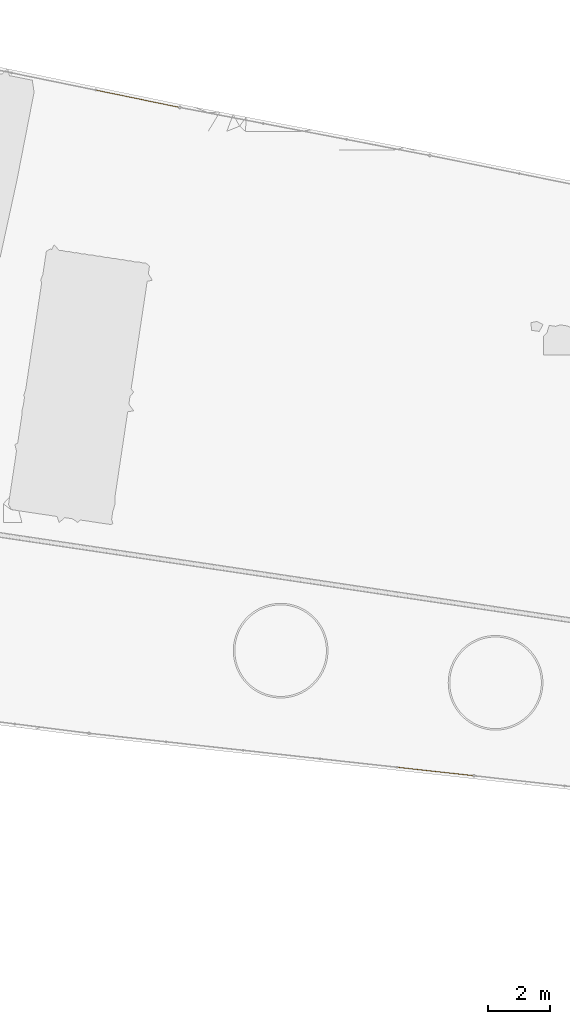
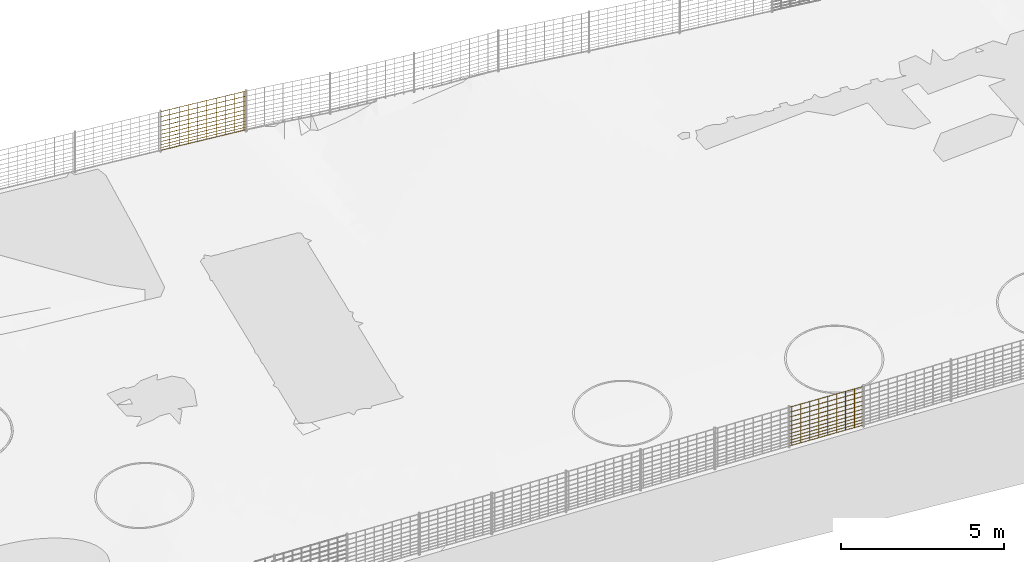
# Not in any storey, part 35 of 72: 2 railings.
"""IFC4 model written with IfcOpenShell, lengths in metres."""

from ifc_helpers import new_model, si_unit, direction, frame, origin_with_axes, place, context, subcontext, project, spatial, polygons, material, element, save


model = new_model("IFC4")

# Units and contexts
model_context = context("Model", 3, precision=1e-05, world=origin_with_axes(), true_north=direction((0.0, 1.0)))
body_context = subcontext(model_context, "Body", "Model", "MODEL_VIEW")
ifc_project = project(units=[si_unit("VOLUMEUNIT", "CUBIC_METRE"), si_unit("LENGTHUNIT", "METRE"), si_unit("AREAUNIT", "SQUARE_METRE")], contexts=[model_context])

# Site
site_placement = place(None, origin_with_axes())
site = spatial("IfcSite", under=ifc_project, at=site_placement, Name="Lares · Rua das Mercês · artigo 4771")

# Railings
ifc_material = material(Name="Aço galvanizado / Stahl verzinkt", Category="steel")
railing_1_placement = place(site_placement, frame((0.0, 0.0, 0.0), z_axis=(0.0, 0.0, 1.0), x_axis=(1.0, -1.03767253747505e-17, 0.0)))
element("IfcRailing", 1, at=railing_1_placement, inside=site, material=ifc_material, Name="Vedação · rede ovelheira 1.027", ObjectType="SHEEP_WIRE_FENCE", PredefinedType="USERDEFINED", context=body_context, shape_type="Tessellation", body=[
    polygons([(23.4589836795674, 0.284682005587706, 12.6250367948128), (23.4588670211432, 0.283185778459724, 12.6235375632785), (23.4586549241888, 0.281700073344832, 12.6250367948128), (23.4587715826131, 0.283196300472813, 12.6265360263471), (20.9791119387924, 0.558085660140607, 12.545145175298), (20.9789952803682, 0.556589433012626, 12.5436459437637), (20.9787831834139, 0.555103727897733, 12.545145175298), (20.9788998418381, 0.556599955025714, 12.5466444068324), (23.4589836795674, 0.284682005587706, 12.7250367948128), (23.4588670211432, 0.283185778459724, 12.7235375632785), (23.4586549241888, 0.281700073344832, 12.7250367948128), (23.4587715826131, 0.283196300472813, 12.7265360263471), (20.9791119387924, 0.558085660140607, 12.645145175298), (20.9789952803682, 0.556589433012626, 12.6436459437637), (20.9787831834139, 0.555103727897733, 12.645145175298), (20.9788998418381, 0.556599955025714, 12.6466444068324), (23.4589836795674, 0.284682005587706, 12.8350367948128), (23.4588670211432, 0.283185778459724, 12.8335375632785), (23.4586549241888, 0.281700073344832, 12.8350367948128), (23.4587715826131, 0.283196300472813, 12.8365360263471), (20.9791119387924, 0.558085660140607, 12.755145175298), (20.9789952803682, 0.556589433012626, 12.7536459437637), (20.9787831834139, 0.555103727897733, 12.755145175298), (20.9788998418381, 0.556599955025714, 12.7566444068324), (23.4589836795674, 0.284682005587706, 12.9550367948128), (23.4588670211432, 0.283185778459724, 12.9535375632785), (23.4586549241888, 0.281700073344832, 12.9550367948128), (23.4587715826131, 0.283196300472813, 12.9565360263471), (20.9791119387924, 0.558085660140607, 12.875145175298), (20.9789952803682, 0.556589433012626, 12.8736459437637), (20.9787831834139, 0.555103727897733, 12.875145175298), (20.9788998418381, 0.556599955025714, 12.8766444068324), (23.4589836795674, 0.284682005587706, 13.0850367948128), (23.4588670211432, 0.283185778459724, 13.0835375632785), (23.4586549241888, 0.281700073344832, 13.0850367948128), (23.4587715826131, 0.283196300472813, 13.0865360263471), (20.9791119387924, 0.558085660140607, 13.005145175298), (20.9789952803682, 0.556589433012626, 13.0036459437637), (20.9787831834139, 0.555103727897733, 13.005145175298), (20.9788998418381, 0.556599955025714, 13.0066444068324), (23.4589836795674, 0.284682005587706, 13.2250367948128), (23.4588670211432, 0.283185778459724, 13.2235375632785), (23.4586549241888, 0.281700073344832, 13.2250367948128), (23.4587715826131, 0.283196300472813, 13.2265360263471), (20.9791119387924, 0.558085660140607, 13.145145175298), (20.9789952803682, 0.556589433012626, 13.1436459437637), (20.9787831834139, 0.555103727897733, 13.145145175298), (20.9788998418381, 0.556599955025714, 13.1466444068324), (23.4589836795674, 0.284682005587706, 13.3750367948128), (23.4588670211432, 0.283185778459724, 13.3735375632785), (23.4586549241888, 0.281700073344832, 13.3750367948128), (23.4587715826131, 0.283196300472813, 13.3765360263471), (20.9791119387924, 0.558085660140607, 13.295145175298), (20.9789952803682, 0.556589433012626, 13.2936459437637), (20.9787831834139, 0.555103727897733, 13.295145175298), (20.9788998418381, 0.556599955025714, 13.2966444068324), (23.4589836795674, 0.284682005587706, 13.5350367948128), (23.4588670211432, 0.283185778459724, 13.5335375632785), (23.4586549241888, 0.281700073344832, 13.5350367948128), (23.4587715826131, 0.283196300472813, 13.5365360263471), (20.9791119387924, 0.558085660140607, 13.455145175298), (20.9789952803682, 0.556589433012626, 13.4536459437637), (20.9787831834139, 0.555103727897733, 13.455145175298), (20.9788998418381, 0.556599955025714, 13.4566444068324), (23.4589836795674, 0.284682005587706, 13.7050367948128), (23.4588670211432, 0.283185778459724, 13.7035375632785), (23.4586549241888, 0.281700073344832, 13.7050367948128), (23.4587715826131, 0.283196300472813, 13.7065360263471), (20.9791119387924, 0.558085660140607, 13.625145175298), (20.9789952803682, 0.556589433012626, 13.6236459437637), (20.9787831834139, 0.555103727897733, 13.625145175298), (20.9788998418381, 0.556599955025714, 13.6266444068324), (23.4589836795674, 0.284682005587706, 13.8850367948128), (23.4588670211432, 0.283185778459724, 13.8835375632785), (23.4586549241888, 0.281700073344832, 13.8850367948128), (23.4587715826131, 0.283196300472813, 13.8865360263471), (20.9791119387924, 0.558085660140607, 13.805145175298), (20.9789952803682, 0.556589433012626, 13.8036459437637), (20.9787831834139, 0.555103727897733, 13.805145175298), (20.9788998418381, 0.556599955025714, 13.8066444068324), (23.4589836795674, 0.284682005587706, 14.0750367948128), (23.4588670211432, 0.283185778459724, 14.0735375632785), (23.4586549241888, 0.281700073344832, 14.0750367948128), (23.4587715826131, 0.283196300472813, 14.0765360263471), (20.9791119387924, 0.558085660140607, 13.995145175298), (20.9789952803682, 0.556589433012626, 13.9936459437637), (20.9787831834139, 0.555103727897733, 13.995145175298), (20.9788998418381, 0.556599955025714, 13.9966444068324), (23.1606260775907, 0.317566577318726, 12.6154301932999), (23.1591260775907, 0.316066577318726, 12.6154301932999), (23.1606260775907, 0.314566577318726, 12.6154301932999), (23.1621260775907, 0.316066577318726, 12.6154301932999), (23.1606260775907, 0.317566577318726, 14.0654301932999), (23.1591260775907, 0.316066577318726, 14.0654301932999), (23.1606260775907, 0.314566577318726, 14.0654301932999), (23.1621260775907, 0.316066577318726, 14.0654301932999), (22.8624328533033, 0.350442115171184, 12.6058235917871), (22.8609328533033, 0.348942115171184, 12.6058235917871), (22.8624328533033, 0.347442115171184, 12.6058235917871), (22.8639328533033, 0.348942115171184, 12.6058235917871), (22.8624328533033, 0.350442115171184, 14.0558235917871), (22.8609328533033, 0.348942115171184, 14.0558235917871), (22.8624328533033, 0.347442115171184, 14.0558235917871), (22.8639328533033, 0.348942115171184, 14.0558235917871), (22.5642396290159, 0.383317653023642, 12.5962169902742), (22.5627396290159, 0.381817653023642, 12.5962169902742), (22.5642396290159, 0.380317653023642, 12.5962169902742), (22.5657396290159, 0.381817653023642, 12.5962169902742), (22.5642396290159, 0.383317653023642, 14.0462169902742), (22.5627396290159, 0.381817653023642, 14.0462169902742), (22.5642396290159, 0.380317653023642, 14.0462169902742), (22.5657396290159, 0.381817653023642, 14.0462169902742), (22.2660464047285, 0.4161931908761, 12.5866103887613), (22.2645464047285, 0.4146931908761, 12.5866103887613), (22.2660464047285, 0.4131931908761, 12.5866103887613), (22.2675464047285, 0.4146931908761, 12.5866103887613), (22.2660464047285, 0.4161931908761, 14.0366103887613), (22.2645464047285, 0.4146931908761, 14.0366103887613), (22.2660464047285, 0.4131931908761, 14.0366103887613), (22.2675464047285, 0.4146931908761, 14.0366103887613), (21.9678531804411, 0.449068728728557, 12.5770037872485), (21.9663531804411, 0.447568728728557, 12.5770037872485), (21.9678531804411, 0.446068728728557, 12.5770037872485), (21.9693531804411, 0.447568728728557, 12.5770037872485), (21.9678531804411, 0.449068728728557, 14.0270037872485), (21.9663531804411, 0.447568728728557, 14.0270037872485), (21.9678531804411, 0.446068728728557, 14.0270037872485), (21.9693531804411, 0.447568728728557, 14.0270037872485), (21.6696599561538, 0.481944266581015, 12.5673971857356), (21.6681599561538, 0.480444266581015, 12.5673971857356), (21.6696599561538, 0.478944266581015, 12.5673971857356), (21.6711599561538, 0.480444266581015, 12.5673971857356), (21.6696599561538, 0.481944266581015, 14.0173971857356), (21.6681599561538, 0.480444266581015, 14.0173971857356), (21.6696599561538, 0.478944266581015, 14.0173971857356), (21.6711599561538, 0.480444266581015, 14.0173971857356), (21.3714667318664, 0.514819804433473, 12.5577905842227), (21.3699667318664, 0.513319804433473, 12.5577905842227), (21.3714667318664, 0.511819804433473, 12.5577905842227), (21.3729667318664, 0.513319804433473, 12.5577905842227), (21.3714667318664, 0.514819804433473, 14.0077905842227), (21.3699667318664, 0.513319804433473, 14.0077905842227), (21.3714667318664, 0.511819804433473, 14.0077905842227), (21.3729667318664, 0.513319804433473, 14.0077905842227), (21.073273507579, 0.54769534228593, 12.5481839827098), (21.071773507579, 0.54619534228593, 12.5481839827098), (21.073273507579, 0.544695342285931, 12.5481839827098), (21.074773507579, 0.54619534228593, 12.5481839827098), (21.073273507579, 0.54769534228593, 13.9981839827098), (21.071773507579, 0.54619534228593, 13.9981839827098), (21.073273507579, 0.544695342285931, 13.9981839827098), (21.074773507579, 0.54619534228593, 13.9981839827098)], [[[4, 3, 2, 1]], [[5, 6, 7, 8]], [[1, 2, 6, 5]], [[2, 3, 7, 6]], [[3, 4, 8, 7]], [[4, 1, 5, 8]], [[12, 11, 10, 9]], [[13, 14, 15, 16]], [[9, 10, 14, 13]], [[10, 11, 15, 14]], [[11, 12, 16, 15]], [[12, 9, 13, 16]], [[20, 19, 18, 17]], [[21, 22, 23, 24]], [[17, 18, 22, 21]], [[18, 19, 23, 22]], [[19, 20, 24, 23]], [[20, 17, 21, 24]], [[28, 27, 26, 25]], [[29, 30, 31, 32]], [[25, 26, 30, 29]], [[26, 27, 31, 30]], [[27, 28, 32, 31]], [[28, 25, 29, 32]], [[36, 35, 34, 33]], [[37, 38, 39, 40]], [[33, 34, 38, 37]], [[34, 35, 39, 38]], [[35, 36, 40, 39]], [[36, 33, 37, 40]], [[44, 43, 42, 41]], [[45, 46, 47, 48]], [[41, 42, 46, 45]], [[42, 43, 47, 46]], [[43, 44, 48, 47]], [[44, 41, 45, 48]], [[52, 51, 50, 49]], [[53, 54, 55, 56]], [[49, 50, 54, 53]], [[50, 51, 55, 54]], [[51, 52, 56, 55]], [[52, 49, 53, 56]], [[60, 59, 58, 57]], [[61, 62, 63, 64]], [[57, 58, 62, 61]], [[58, 59, 63, 62]], [[59, 60, 64, 63]], [[60, 57, 61, 64]], [[68, 67, 66, 65]], [[69, 70, 71, 72]], [[65, 66, 70, 69]], [[66, 67, 71, 70]], [[67, 68, 72, 71]], [[68, 65, 69, 72]], [[76, 75, 74, 73]], [[77, 78, 79, 80]], [[73, 74, 78, 77]], [[74, 75, 79, 78]], [[75, 76, 80, 79]], [[76, 73, 77, 80]], [[84, 83, 82, 81]], [[85, 86, 87, 88]], [[81, 82, 86, 85]], [[82, 83, 87, 86]], [[83, 84, 88, 87]], [[84, 81, 85, 88]], [[92, 91, 90, 89]], [[93, 94, 95, 96]], [[89, 90, 94, 93]], [[90, 91, 95, 94]], [[91, 92, 96, 95]], [[92, 89, 93, 96]], [[100, 99, 98, 97]], [[101, 102, 103, 104]], [[97, 98, 102, 101]], [[98, 99, 103, 102]], [[99, 100, 104, 103]], [[100, 97, 101, 104]], [[108, 107, 106, 105]], [[109, 110, 111, 112]], [[105, 106, 110, 109]], [[106, 107, 111, 110]], [[107, 108, 112, 111]], [[108, 105, 109, 112]], [[116, 115, 114, 113]], [[117, 118, 119, 120]], [[113, 114, 118, 117]], [[114, 115, 119, 118]], [[115, 116, 120, 119]], [[116, 113, 117, 120]], [[124, 123, 122, 121]], [[125, 126, 127, 128]], [[121, 122, 126, 125]], [[122, 123, 127, 126]], [[123, 124, 128, 127]], [[124, 121, 125, 128]], [[132, 131, 130, 129]], [[133, 134, 135, 136]], [[129, 130, 134, 133]], [[130, 131, 135, 134]], [[131, 132, 136, 135]], [[132, 129, 133, 136]], [[140, 139, 138, 137]], [[141, 142, 143, 144]], [[137, 138, 142, 141]], [[138, 139, 143, 142]], [[139, 140, 144, 143]], [[140, 137, 141, 144]], [[148, 147, 146, 145]], [[149, 150, 151, 152]], [[145, 146, 150, 149]], [[146, 147, 151, 150]], [[147, 148, 152, 151]], [[148, 145, 149, 152]]]),
])
railing_2_placement = place(site_placement, frame((0.0, 0.0, 0.0), z_axis=(0.0, 0.0, 1.0), x_axis=(1.0, -1.03767253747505e-17, 0.0)))
element("IfcRailing", 2, at=railing_2_placement, inside=site, material=ifc_material, Name="Vedação · rede ovelheira 1.055", ObjectType="SHEEP_WIRE_FENCE", PredefinedType="USERDEFINED", context=body_context, shape_type="Tessellation", body=[
    polygons([(11.2702982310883, 22.3659618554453, 13.8071220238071), (11.270687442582, 22.3674132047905, 13.8056246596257), (11.2709025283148, 22.368900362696, 13.8071220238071), (11.2705133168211, 22.3674490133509, 13.8086193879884), (13.9817824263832, 21.8083513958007, 13.9714462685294), (13.9821716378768, 21.8098027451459, 13.9699489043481), (13.9823867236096, 21.8112899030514, 13.9714462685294), (13.981997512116, 21.8098385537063, 13.9729436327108), (11.2702982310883, 22.3659618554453, 13.9071220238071), (11.270687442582, 22.3674132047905, 13.9056246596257), (11.2709025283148, 22.368900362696, 13.9071220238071), (11.2705133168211, 22.3674490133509, 13.9086193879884), (13.9817824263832, 21.8083513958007, 14.0714462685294), (13.9821716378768, 21.8098027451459, 14.0699489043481), (13.9823867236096, 21.8112899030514, 14.0714462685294), (13.981997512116, 21.8098385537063, 14.0729436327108), (11.2702982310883, 22.3659618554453, 14.0171220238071), (11.270687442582, 22.3674132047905, 14.0156246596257), (11.2709025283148, 22.368900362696, 14.0171220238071), (11.2705133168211, 22.3674490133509, 14.0186193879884), (13.9817824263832, 21.8083513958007, 14.1814462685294), (13.9821716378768, 21.8098027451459, 14.1799489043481), (13.9823867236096, 21.8112899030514, 14.1814462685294), (13.981997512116, 21.8098385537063, 14.1829436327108), (11.2702982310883, 22.3659618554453, 14.1371220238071), (11.270687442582, 22.3674132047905, 14.1356246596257), (11.2709025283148, 22.368900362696, 14.1371220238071), (11.2705133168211, 22.3674490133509, 14.1386193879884), (13.9817824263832, 21.8083513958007, 14.3014462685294), (13.9821716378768, 21.8098027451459, 14.2999489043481), (13.9823867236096, 21.8112899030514, 14.3014462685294), (13.981997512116, 21.8098385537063, 14.3029436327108), (11.2702982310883, 22.3659618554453, 14.2671220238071), (11.270687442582, 22.3674132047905, 14.2656246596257), (11.2709025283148, 22.368900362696, 14.2671220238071), (11.2705133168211, 22.3674490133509, 14.2686193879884), (13.9817824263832, 21.8083513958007, 14.4314462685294), (13.9821716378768, 21.8098027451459, 14.4299489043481), (13.9823867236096, 21.8112899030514, 14.4314462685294), (13.981997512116, 21.8098385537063, 14.4329436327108), (11.2702982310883, 22.3659618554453, 14.4071220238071), (11.270687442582, 22.3674132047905, 14.4056246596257), (11.2709025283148, 22.368900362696, 14.4071220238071), (11.2705133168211, 22.3674490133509, 14.4086193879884), (13.9817824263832, 21.8083513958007, 14.5714462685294), (13.9821716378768, 21.8098027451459, 14.5699489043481), (13.9823867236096, 21.8112899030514, 14.5714462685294), (13.981997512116, 21.8098385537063, 14.5729436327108), (11.2702982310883, 22.3659618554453, 14.5571220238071), (11.270687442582, 22.3674132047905, 14.5556246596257), (11.2709025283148, 22.368900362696, 14.5571220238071), (11.2705133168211, 22.3674490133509, 14.5586193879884), (13.9817824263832, 21.8083513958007, 14.7214462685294), (13.9821716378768, 21.8098027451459, 14.7199489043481), (13.9823867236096, 21.8112899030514, 14.7214462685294), (13.981997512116, 21.8098385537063, 14.7229436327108), (11.2702982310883, 22.3659618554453, 14.7171220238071), (11.270687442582, 22.3674132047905, 14.7156246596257), (11.2709025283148, 22.368900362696, 14.7171220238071), (11.2705133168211, 22.3674490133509, 14.7186193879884), (13.9817824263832, 21.8083513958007, 14.8814462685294), (13.9821716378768, 21.8098027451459, 14.8799489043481), (13.9823867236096, 21.8112899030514, 14.8814462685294), (13.981997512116, 21.8098385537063, 14.8829436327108), (11.2702982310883, 22.3659618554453, 14.8871220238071), (11.270687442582, 22.3674132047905, 14.8856246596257), (11.2709025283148, 22.368900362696, 14.8871220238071), (11.2705133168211, 22.3674490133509, 14.8886193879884), (13.9817824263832, 21.8083513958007, 15.0514462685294), (13.9821716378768, 21.8098027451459, 15.0499489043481), (13.9823867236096, 21.8112899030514, 15.0514462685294), (13.981997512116, 21.8098385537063, 15.0529436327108), (11.2702982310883, 22.3659618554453, 15.0671220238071), (11.270687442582, 22.3674132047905, 15.0656246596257), (11.2709025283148, 22.368900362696, 15.0671220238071), (11.2705133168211, 22.3674490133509, 15.0686193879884), (13.9817824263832, 21.8083513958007, 15.2314462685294), (13.9821716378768, 21.8098027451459, 15.2299489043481), (13.9823867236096, 21.8112899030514, 15.2314462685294), (13.981997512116, 21.8098385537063, 15.2329436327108), (11.2702982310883, 22.3659618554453, 15.2571220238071), (11.270687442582, 22.3674132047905, 15.2556246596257), (11.2709025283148, 22.368900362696, 15.2571220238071), (11.2705133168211, 22.3674490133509, 15.2586193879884), (13.9817824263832, 21.8083513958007, 15.4214462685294), (13.9821716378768, 21.8098027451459, 15.4199489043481), (13.9823867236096, 21.8112899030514, 15.4214462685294), (13.981997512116, 21.8098385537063, 15.4229436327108), (11.5644511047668, 22.3085013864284, 13.8249302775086), (11.5629511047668, 22.3070013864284, 13.8249302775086), (11.5644511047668, 22.3055013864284, 13.8249302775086), (11.5659511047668, 22.3070013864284, 13.8249302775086), (11.5644511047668, 22.3085013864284, 15.2749302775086), (11.5629511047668, 22.3070013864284, 15.2749302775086), (11.5644511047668, 22.3055013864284, 15.2749302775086), (11.5659511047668, 22.3070013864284, 15.2749302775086), (11.8583018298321, 22.2480716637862, 13.8427385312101), (11.8568018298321, 22.2465716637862, 13.8427385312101), (11.8583018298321, 22.2450716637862, 13.8427385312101), (11.8598018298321, 22.2465716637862, 13.8427385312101), (11.8583018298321, 22.2480716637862, 15.2927385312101), (11.8568018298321, 22.2465716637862, 15.2927385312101), (11.8583018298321, 22.2450716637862, 15.2927385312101), (11.8598018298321, 22.2465716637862, 15.2927385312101), (12.1521525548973, 22.1876419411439, 13.8605467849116), (12.1506525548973, 22.1861419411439, 13.8605467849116), (12.1521525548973, 22.1846419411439, 13.8605467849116), (12.1536525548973, 22.1861419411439, 13.8605467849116), (12.1521525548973, 22.1876419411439, 15.3105467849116), (12.1506525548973, 22.1861419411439, 15.3105467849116), (12.1521525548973, 22.1846419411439, 15.3105467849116), (12.1536525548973, 22.1861419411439, 15.3105467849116), (12.4460032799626, 22.1272122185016, 13.8783550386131), (12.4445032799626, 22.1257122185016, 13.8783550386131), (12.4460032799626, 22.1242122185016, 13.8783550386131), (12.4475032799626, 22.1257122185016, 13.8783550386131), (12.4460032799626, 22.1272122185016, 15.3283550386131), (12.4445032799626, 22.1257122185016, 15.3283550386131), (12.4460032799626, 22.1242122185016, 15.3283550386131), (12.4475032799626, 22.1257122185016, 15.3283550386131), (12.7398540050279, 22.0667824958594, 13.8961632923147), (12.7383540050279, 22.0652824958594, 13.8961632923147), (12.7398540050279, 22.0637824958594, 13.8961632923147), (12.7413540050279, 22.0652824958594, 13.8961632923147), (12.7398540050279, 22.0667824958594, 15.3461632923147), (12.7383540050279, 22.0652824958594, 15.3461632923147), (12.7398540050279, 22.0637824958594, 15.3461632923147), (12.7413540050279, 22.0652824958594, 15.3461632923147), (13.0337047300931, 22.0063527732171, 13.9139715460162), (13.0322047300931, 22.0048527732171, 13.9139715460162), (13.0337047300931, 22.0033527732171, 13.9139715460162), (13.0352047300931, 22.0048527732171, 13.9139715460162), (13.0337047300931, 22.0063527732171, 15.3639715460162), (13.0322047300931, 22.0048527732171, 15.3639715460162), (13.0337047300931, 22.0033527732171, 15.3639715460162), (13.0352047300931, 22.0048527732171, 15.3639715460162), (13.3275554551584, 21.9459230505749, 13.9317797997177), (13.3260554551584, 21.9444230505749, 13.9317797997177), (13.3275554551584, 21.9429230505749, 13.9317797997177), (13.3290554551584, 21.9444230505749, 13.9317797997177), (13.3275554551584, 21.9459230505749, 15.3817797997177), (13.3260554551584, 21.9444230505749, 15.3817797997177), (13.3275554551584, 21.9429230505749, 15.3817797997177), (13.3290554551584, 21.9444230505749, 15.3817797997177), (13.6214061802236, 21.8854933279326, 13.9495880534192), (13.6199061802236, 21.8839933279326, 13.9495880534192), (13.6214061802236, 21.8824933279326, 13.9495880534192), (13.6229061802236, 21.8839933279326, 13.9495880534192), (13.6214061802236, 21.8854933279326, 15.3995880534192), (13.6199061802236, 21.8839933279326, 15.3995880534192), (13.6214061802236, 21.8824933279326, 15.3995880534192), (13.6229061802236, 21.8839933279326, 15.3995880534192), (13.9152569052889, 21.8250636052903, 13.9673963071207), (13.9137569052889, 21.8235636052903, 13.9673963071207), (13.9152569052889, 21.8220636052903, 13.9673963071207), (13.9167569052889, 21.8235636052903, 13.9673963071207), (13.9152569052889, 21.8250636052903, 15.4173963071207), (13.9137569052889, 21.8235636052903, 15.4173963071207), (13.9152569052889, 21.8220636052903, 15.4173963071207), (13.9167569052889, 21.8235636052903, 15.4173963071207)], [[[4, 3, 2, 1]], [[5, 6, 7, 8]], [[1, 2, 6, 5]], [[2, 3, 7, 6]], [[3, 4, 8, 7]], [[4, 1, 5, 8]], [[12, 11, 10, 9]], [[13, 14, 15, 16]], [[9, 10, 14, 13]], [[10, 11, 15, 14]], [[11, 12, 16, 15]], [[12, 9, 13, 16]], [[20, 19, 18, 17]], [[21, 22, 23, 24]], [[17, 18, 22, 21]], [[18, 19, 23, 22]], [[19, 20, 24, 23]], [[20, 17, 21, 24]], [[28, 27, 26, 25]], [[29, 30, 31, 32]], [[25, 26, 30, 29]], [[26, 27, 31, 30]], [[27, 28, 32, 31]], [[28, 25, 29, 32]], [[36, 35, 34, 33]], [[37, 38, 39, 40]], [[33, 34, 38, 37]], [[34, 35, 39, 38]], [[35, 36, 40, 39]], [[36, 33, 37, 40]], [[44, 43, 42, 41]], [[45, 46, 47, 48]], [[41, 42, 46, 45]], [[42, 43, 47, 46]], [[43, 44, 48, 47]], [[44, 41, 45, 48]], [[52, 51, 50, 49]], [[53, 54, 55, 56]], [[49, 50, 54, 53]], [[50, 51, 55, 54]], [[51, 52, 56, 55]], [[52, 49, 53, 56]], [[60, 59, 58, 57]], [[61, 62, 63, 64]], [[57, 58, 62, 61]], [[58, 59, 63, 62]], [[59, 60, 64, 63]], [[60, 57, 61, 64]], [[68, 67, 66, 65]], [[69, 70, 71, 72]], [[65, 66, 70, 69]], [[66, 67, 71, 70]], [[67, 68, 72, 71]], [[68, 65, 69, 72]], [[76, 75, 74, 73]], [[77, 78, 79, 80]], [[73, 74, 78, 77]], [[74, 75, 79, 78]], [[75, 76, 80, 79]], [[76, 73, 77, 80]], [[84, 83, 82, 81]], [[85, 86, 87, 88]], [[81, 82, 86, 85]], [[82, 83, 87, 86]], [[83, 84, 88, 87]], [[84, 81, 85, 88]], [[92, 91, 90, 89]], [[93, 94, 95, 96]], [[89, 90, 94, 93]], [[90, 91, 95, 94]], [[91, 92, 96, 95]], [[92, 89, 93, 96]], [[100, 99, 98, 97]], [[101, 102, 103, 104]], [[97, 98, 102, 101]], [[98, 99, 103, 102]], [[99, 100, 104, 103]], [[100, 97, 101, 104]], [[108, 107, 106, 105]], [[109, 110, 111, 112]], [[105, 106, 110, 109]], [[106, 107, 111, 110]], [[107, 108, 112, 111]], [[108, 105, 109, 112]], [[116, 115, 114, 113]], [[117, 118, 119, 120]], [[113, 114, 118, 117]], [[114, 115, 119, 118]], [[115, 116, 120, 119]], [[116, 113, 117, 120]], [[124, 123, 122, 121]], [[125, 126, 127, 128]], [[121, 122, 126, 125]], [[122, 123, 127, 126]], [[123, 124, 128, 127]], [[124, 121, 125, 128]], [[132, 131, 130, 129]], [[133, 134, 135, 136]], [[129, 130, 134, 133]], [[130, 131, 135, 134]], [[131, 132, 136, 135]], [[132, 129, 133, 136]], [[140, 139, 138, 137]], [[141, 142, 143, 144]], [[137, 138, 142, 141]], [[138, 139, 143, 142]], [[139, 140, 144, 143]], [[140, 137, 141, 144]], [[148, 147, 146, 145]], [[149, 150, 151, 152]], [[145, 146, 150, 149]], [[146, 147, 151, 150]], [[147, 148, 152, 151]], [[148, 145, 149, 152]], [[156, 155, 154, 153]], [[157, 158, 159, 160]], [[153, 154, 158, 157]], [[154, 155, 159, 158]], [[155, 156, 160, 159]], [[156, 153, 157, 160]]]),
])

save(model, "model.ifc")
